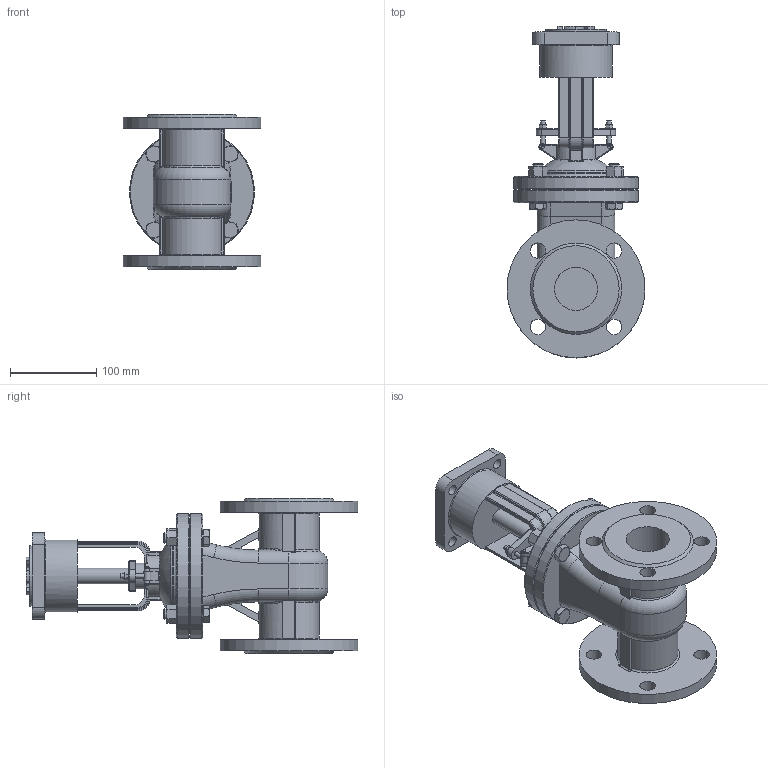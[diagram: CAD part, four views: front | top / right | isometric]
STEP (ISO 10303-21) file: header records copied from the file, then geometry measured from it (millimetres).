
FILE_DESCRIPTION(('STEP AP242'), '1');
FILE_NAME('GVWR3535M-2W-F-ÎÑÒ Çàäâèæêà êëèíîâàÿ ñ âûäâèæíûì øòîêîì Äó50 Ðó16', '2026-06-04T20:38:55', ('R2D2'), (''), 'C3D Converter', 'C3D Toolkit', '');
FILE_SCHEMA(('AP242_MANAGED_MODEL_BASED_3D_ENGINEERING_MIM_LF { 1 0 10303 442 1 1 4 }'));
Length unit declared in the file: millimetre
Products named in the file (1): GVWR3535M-2W-F-ОСТ
Bounding box: 160 x 385 x 180 mm (x, y, z)
Volume: 2486282.8 mm3; surface area: 305571 mm2
Topology: 1 solids, 1 shells, 838 faces, 2114 edges, 1306 vertices
Faces by surface type: plane 333, cylinder 171, cone 108, extrusion 96, bspline 71, torus 58, sphere 1
Full cylindrical faces by diameter (mm): 3 x4, 5 x4, 8 x2, 12 x12, 18 x14, 20 x1, 30 x1, 32 x1, 50 x3, 52 x1, 70 x1, 84.405 x1, 90 x2, 145 x2, 160 x2
Entity records: 47442 total; most frequent: CARTESIAN_POINT 21803, ORIENTED_EDGE 4070, DIRECTION 3433, EDGE_CURVE 2035, VERTEX_POINT 1305, AXIS2_PLACEMENT_3D 1258, EDGE_LOOP 999, VECTOR 917
